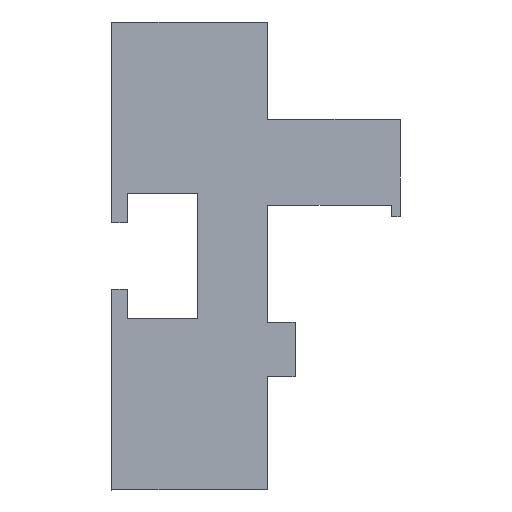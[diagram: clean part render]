
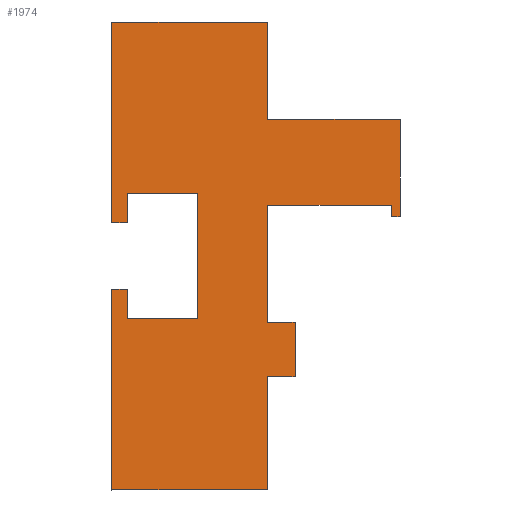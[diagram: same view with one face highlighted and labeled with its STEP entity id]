
A CAD part, left-side view. The second image highlights one B-rep face of the part: STEP entity #1974.
In plain terms, the highlighted planar face has unit normal (-0.707, -0.707, 0).
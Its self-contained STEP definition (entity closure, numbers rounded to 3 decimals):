
#1023=ORIENTED_EDGE('',*,*,#1400,.F.);
#1024=ORIENTED_EDGE('',*,*,#1404,.F.);
#1025=ORIENTED_EDGE('',*,*,#1428,.F.);
#1026=ORIENTED_EDGE('',*,*,#1429,.F.);
#1027=ORIENTED_EDGE('',*,*,#1430,.F.);
#1028=ORIENTED_EDGE('',*,*,#1431,.F.);
#1029=ORIENTED_EDGE('',*,*,#1432,.F.);
#1030=ORIENTED_EDGE('',*,*,#1433,.F.);
#1031=ORIENTED_EDGE('',*,*,#1434,.F.);
#1032=ORIENTED_EDGE('',*,*,#1435,.F.);
#1033=ORIENTED_EDGE('',*,*,#1436,.F.);
#1034=ORIENTED_EDGE('',*,*,#1437,.F.);
#1035=ORIENTED_EDGE('',*,*,#1438,.F.);
#1036=ORIENTED_EDGE('',*,*,#1439,.F.);
#1037=ORIENTED_EDGE('',*,*,#1440,.F.);
#1038=ORIENTED_EDGE('',*,*,#1441,.F.);
#1039=ORIENTED_EDGE('',*,*,#1442,.F.);
#1040=ORIENTED_EDGE('',*,*,#1443,.F.);
#1041=ORIENTED_EDGE('',*,*,#1444,.F.);
#1042=ORIENTED_EDGE('',*,*,#1445,.F.);
#1043=ORIENTED_EDGE('',*,*,#1426,.F.);
#1044=ORIENTED_EDGE('',*,*,#1390,.F.);
#1045=ORIENTED_EDGE('',*,*,#1397,.F.);
#1157=VECTOR('',#1556,1.);
#1162=VECTOR('',#1567,1.);
#1165=VECTOR('',#1572,1.);
#1168=VECTOR('',#1579,1.);
#1190=VECTOR('',#1605,1.);
#1192=VECTOR('',#1609,1.);
#1193=VECTOR('',#1610,1.);
#1194=VECTOR('',#1611,1.);
#1195=VECTOR('',#1612,1.);
#1196=VECTOR('',#1613,1.);
#1197=VECTOR('',#1614,1.);
#1198=VECTOR('',#1615,1.);
#1199=VECTOR('',#1616,1.);
#1200=VECTOR('',#1617,1.);
#1201=VECTOR('',#1618,1.);
#1202=VECTOR('',#1619,1.);
#1203=VECTOR('',#1620,1.);
#1204=VECTOR('',#1621,1.);
#1205=VECTOR('',#1622,1.);
#1206=VECTOR('',#1623,1.);
#1207=VECTOR('',#1624,1.);
#1208=VECTOR('',#1625,1.);
#1209=VECTOR('',#1626,1.);
#1242=LINE('',#1728,#1157);
#1247=LINE('',#1741,#1162);
#1250=LINE('',#1747,#1165);
#1253=LINE('',#1754,#1168);
#1275=LINE('',#1797,#1190);
#1277=LINE('',#1801,#1192);
#1278=LINE('',#1803,#1193);
#1279=LINE('',#1805,#1194);
#1280=LINE('',#1807,#1195);
#1281=LINE('',#1809,#1196);
#1282=LINE('',#1811,#1197);
#1283=LINE('',#1813,#1198);
#1284=LINE('',#1815,#1199);
#1285=LINE('',#1817,#1200);
#1286=LINE('',#1819,#1201);
#1287=LINE('',#1821,#1202);
#1288=LINE('',#1823,#1203);
#1289=LINE('',#1825,#1204);
#1290=LINE('',#1827,#1205);
#1291=LINE('',#1829,#1206);
#1292=LINE('',#1831,#1207);
#1293=LINE('',#1833,#1208);
#1294=LINE('',#1834,#1209);
#1326=VERTEX_POINT('',#1724);
#1328=VERTEX_POINT('',#1727);
#1332=VERTEX_POINT('',#1738);
#1334=VERTEX_POINT('',#1744);
#1337=VERTEX_POINT('',#1752);
#1356=VERTEX_POINT('',#1796);
#1357=VERTEX_POINT('',#1800);
#1358=VERTEX_POINT('',#1802);
#1359=VERTEX_POINT('',#1804);
#1360=VERTEX_POINT('',#1806);
#1361=VERTEX_POINT('',#1808);
#1362=VERTEX_POINT('',#1810);
#1363=VERTEX_POINT('',#1812);
#1364=VERTEX_POINT('',#1814);
#1365=VERTEX_POINT('',#1816);
#1366=VERTEX_POINT('',#1818);
#1367=VERTEX_POINT('',#1820);
#1368=VERTEX_POINT('',#1822);
#1369=VERTEX_POINT('',#1824);
#1370=VERTEX_POINT('',#1826);
#1371=VERTEX_POINT('',#1828);
#1372=VERTEX_POINT('',#1830);
#1373=VERTEX_POINT('',#1832);
#1390=EDGE_CURVE('',#1326,#1328,#1242,.T.);
#1397=EDGE_CURVE('',#1332,#1326,#1247,.T.);
#1400=EDGE_CURVE('',#1334,#1332,#1250,.T.);
#1404=EDGE_CURVE('',#1337,#1334,#1253,.T.);
#1426=EDGE_CURVE('',#1328,#1356,#1275,.T.);
#1428=EDGE_CURVE('',#1357,#1337,#1277,.T.);
#1429=EDGE_CURVE('',#1358,#1357,#1278,.T.);
#1430=EDGE_CURVE('',#1359,#1358,#1279,.T.);
#1431=EDGE_CURVE('',#1360,#1359,#1280,.T.);
#1432=EDGE_CURVE('',#1361,#1360,#1281,.T.);
#1433=EDGE_CURVE('',#1362,#1361,#1282,.T.);
#1434=EDGE_CURVE('',#1363,#1362,#1283,.T.);
#1435=EDGE_CURVE('',#1364,#1363,#1284,.T.);
#1436=EDGE_CURVE('',#1365,#1364,#1285,.T.);
#1437=EDGE_CURVE('',#1366,#1365,#1286,.T.);
#1438=EDGE_CURVE('',#1367,#1366,#1287,.T.);
#1439=EDGE_CURVE('',#1368,#1367,#1288,.T.);
#1440=EDGE_CURVE('',#1369,#1368,#1289,.T.);
#1441=EDGE_CURVE('',#1370,#1369,#1290,.T.);
#1442=EDGE_CURVE('',#1371,#1370,#1291,.T.);
#1443=EDGE_CURVE('',#1372,#1371,#1292,.T.);
#1444=EDGE_CURVE('',#1373,#1372,#1293,.T.);
#1445=EDGE_CURVE('',#1356,#1373,#1294,.T.);
#1483=EDGE_LOOP('',(#1023,#1024,#1025,#1026,#1027,#1028,#1029,#1030,#1031,
#1032,#1033,#1034,#1035,#1036,#1037,#1038,#1039,#1040,#1041,#1042,#1043,
#1044,#1045));
#1516=FACE_BOUND('',#1483,.T.);
#1556=DIRECTION('',(0.,0.,25.75));
#1567=DIRECTION('',(-2.,2.,0.));
#1572=DIRECTION('',(0.,0.,-3.75));
#1579=DIRECTION('',(-9.,9.,0.));
#1605=DIRECTION('',(20.,-20.,0.));
#1607=DIRECTION('',(-0.707,-0.707,0.));
#1608=DIRECTION('',(-0.707,0.707,0.));
#1609=DIRECTION('',(0.,0.,16.));
#1610=DIRECTION('',(9.,-9.,0.));
#1611=DIRECTION('',(0.,0.,-3.75));
#1612=DIRECTION('',(2.,-2.,0.));
#1613=DIRECTION('',(0.,0.,25.75));
#1614=DIRECTION('',(-20.,20.,0.));
#1615=DIRECTION('',(0.,0.,-14.5));
#1616=DIRECTION('',(-3.504,3.504,0.));
#1617=DIRECTION('',(0.,0.,-7.));
#1618=DIRECTION('',(3.504,-3.504,0.));
#1619=DIRECTION('',(0.,0.,-15.007));
#1620=DIRECTION('',(-15.861,15.861,0.));
#1621=DIRECTION('',(0.,0.,1.5));
#1622=DIRECTION('',(-1.139,1.139,0.));
#1623=DIRECTION('',(0.,0.,-1.5));
#1624=DIRECTION('',(0.,0.,-10.993));
#1625=DIRECTION('',(17.,-17.,0.));
#1626=DIRECTION('',(0.,0.,-12.5));
#1724=CARTESIAN_POINT('',(200.,0.,4.25));
#1727=CARTESIAN_POINT('',(200.,0.,30.));
#1728=CARTESIAN_POINT('',(200.,0.,4.25));
#1738=CARTESIAN_POINT('',(202.,-2.,4.25));
#1741=CARTESIAN_POINT('',(202.,-2.,4.25));
#1744=CARTESIAN_POINT('',(202.,-2.,8.));
#1747=CARTESIAN_POINT('',(202.,-2.,8.));
#1752=CARTESIAN_POINT('',(211.,-11.,8.));
#1754=CARTESIAN_POINT('',(211.,-11.,8.));
#1796=CARTESIAN_POINT('',(220.,-20.,30.));
#1797=CARTESIAN_POINT('',(200.,0.,30.));
#1799=CARTESIAN_POINT('',(210.837,-10.837,0.));
#1800=CARTESIAN_POINT('',(211.,-11.,-8.));
#1801=CARTESIAN_POINT('',(211.,-11.,-8.));
#1802=CARTESIAN_POINT('',(202.,-2.,-8.));
#1803=CARTESIAN_POINT('',(202.,-2.,-8.));
#1804=CARTESIAN_POINT('',(202.,-2.,-4.25));
#1805=CARTESIAN_POINT('',(202.,-2.,-4.25));
#1806=CARTESIAN_POINT('',(200.,0.,-4.25));
#1807=CARTESIAN_POINT('',(200.,0.,-4.25));
#1808=CARTESIAN_POINT('',(200.,0.,-30.));
#1809=CARTESIAN_POINT('',(200.,0.,-30.));
#1810=CARTESIAN_POINT('',(220.,-20.,-30.));
#1811=CARTESIAN_POINT('',(220.,-20.,-30.));
#1812=CARTESIAN_POINT('',(220.,-20.,-15.5));
#1813=CARTESIAN_POINT('',(220.,-20.,-15.5));
#1814=CARTESIAN_POINT('',(223.504,-23.504,-15.5));
#1815=CARTESIAN_POINT('',(223.504,-23.504,-15.5));
#1816=CARTESIAN_POINT('',(223.504,-23.504,-8.5));
#1817=CARTESIAN_POINT('',(223.504,-23.504,-8.5));
#1818=CARTESIAN_POINT('',(220.,-20.,-8.5));
#1819=CARTESIAN_POINT('',(220.,-20.,-8.5));
#1820=CARTESIAN_POINT('',(220.,-20.,6.507));
#1821=CARTESIAN_POINT('',(220.,-20.,6.507));
#1822=CARTESIAN_POINT('',(235.861,-35.861,6.507));
#1823=CARTESIAN_POINT('',(235.861,-35.861,6.507));
#1824=CARTESIAN_POINT('',(235.861,-35.861,5.007));
#1825=CARTESIAN_POINT('',(235.861,-35.861,5.007));
#1826=CARTESIAN_POINT('',(237.,-37.,5.007));
#1827=CARTESIAN_POINT('',(237.,-37.,5.007));
#1828=CARTESIAN_POINT('',(237.,-37.,6.507));
#1829=CARTESIAN_POINT('',(237.,-37.,6.507));
#1830=CARTESIAN_POINT('',(237.,-37.,17.5));
#1831=CARTESIAN_POINT('',(237.,-37.,17.5));
#1832=CARTESIAN_POINT('',(220.,-20.,17.5));
#1833=CARTESIAN_POINT('',(220.,-20.,17.5));
#1834=CARTESIAN_POINT('',(220.,-20.,30.));
#1908=AXIS2_PLACEMENT_3D('',#1799,#1607,#1608);
#1945=PLANE('',#1908);
#1974=ADVANCED_FACE('',(#1516),#1945,.T.);
